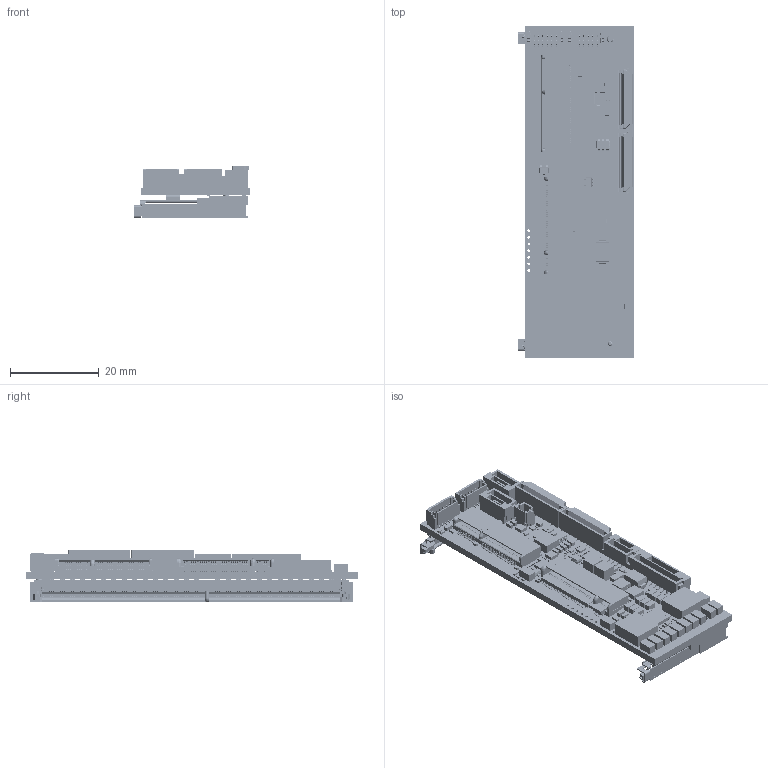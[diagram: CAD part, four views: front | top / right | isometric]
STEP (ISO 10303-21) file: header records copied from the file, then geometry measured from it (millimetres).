
FILE_DESCRIPTION(('Open CASCADE Model'),'2;1');
FILE_NAME('Open CASCADE Shape Model','2026-09-22T17:58:20',('Author'),( 'Open CASCADE'),'Open CASCADE STEP processor 7.5','Open CASCADE 7.5' ,'Unknown');
FILE_SCHEMA(('AUTOMOTIVE_DESIGN { 1 0 10303 214 1 1 1 1 }'));
Length unit declared in the file: millimetre
Products named in the file (385): PCB; Board; Open CASCADE STEP translator 7.5 2.1.1; U10; 8896799152; Extruded; L7; DLP11SN900HL2L; R26; 8874727824; 8874727392; R24; D4; 8874731760; 8874730464; D3; C29; 8896623616; 8896623952; C30; 8897405200; 8897405344; C28; 8874728496; 8874729264; C27; C19; C18; 8928535488; 8928534048; R19; 8874729168; 8874728736; R17; R7; R6; Q1; User Library-SOT-723-3; C17; C15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
Assembly tree (911 placements, depth 5):
  PCB
    Board
      Open CASCADE STEP translator 7.5 2.1.1
    U10
      8896799152
        Extruded
    L7
      DLP11SN900HL2L
    R26
      8874727824  x2
        Extruded
      8874727392
        Extruded
    R24
      8874727824  x2
        Extruded
      8874727392
        Extruded
    D4
      8874731760
        Extruded
      8874730464  x2
        Extruded
    D3
      8874731760
        Extruded
      8874730464  x2
        Extruded
    C29
      8896623616
        Extruded
      8896623952  x2
        Extruded
    C30
      8897405200
        Extruded
      8897405344  x2
        Extruded
    C28
      8874728496  x2
        Extruded
      8874729264
        Extruded
    C27
      8897405344  x2
        Extruded
      8897405200
        Extruded
    C19
      8874731760
        Extruded
      8874730464  x2
        Extruded
    C18
      8928535488
        Extruded
      8928534048  x2
        Extruded
    R19
      8874729168  x2
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Bounding box: 26.25 x 75 x 11.84 mm (x, y, z)
Volume: 7669 mm3; surface area: 13790.6 mm2
Topology: 847 solids, 850 shells, 18288 faces, 48908 edges, 32277 vertices
Faces by surface type: plane 14034, cylinder 3876, bspline 200, sphere 106, torus 60, cone 12
Full cylindrical faces by diameter (mm): 0.11 x1, 0.2 x3, 0.239 x1, 0.6 x8, 0.94 x2, 1.1 x3, 1.6 x3
Entity records: 395692 total; most frequent: CARTESIAN_POINT 73631, ORIENTED_EDGE 65398, DIRECTION 62849, EDGE_CURVE 32700, LINE 25515, VECTOR 25515, VERTEX_POINT 21616, AXIS2_PLACEMENT_3D 18667
